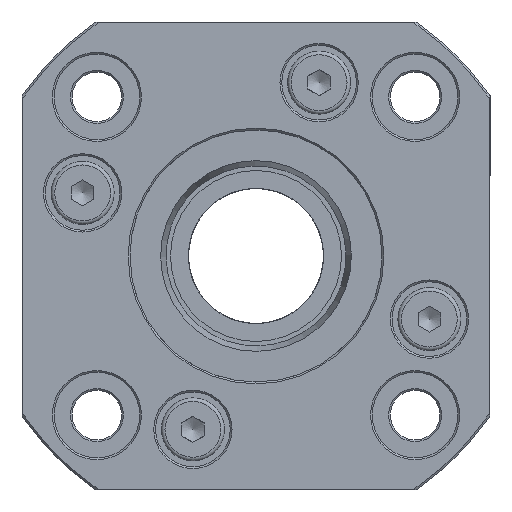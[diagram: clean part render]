
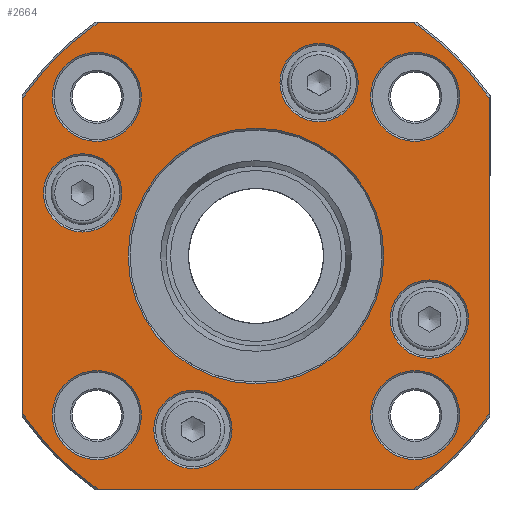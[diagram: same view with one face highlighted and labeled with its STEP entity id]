
A CAD part, left-side view. The second image highlights one B-rep face of the part: STEP entity #2664.
In plain terms, the highlighted planar face has unit normal (-1, 0, 0).
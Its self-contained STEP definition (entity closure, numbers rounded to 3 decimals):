
#165=FACE_BOUND('',#729,.T.);
#166=FACE_BOUND('',#730,.T.);
#167=FACE_BOUND('',#731,.T.);
#168=FACE_BOUND('',#732,.T.);
#169=FACE_BOUND('',#733,.T.);
#170=FACE_BOUND('',#734,.T.);
#171=FACE_BOUND('',#735,.T.);
#172=FACE_BOUND('',#736,.T.);
#173=FACE_BOUND('',#737,.T.);
#347=PLANE('',#2891);
#392=LINE('',#4374,#436);
#398=LINE('',#4415,#442);
#402=LINE('',#4441,#446);
#403=LINE('',#4442,#447);
#436=VECTOR('',#3362,34.853);
#442=VECTOR('',#3390,34.853);
#446=VECTOR('',#3412,34.853);
#447=VECTOR('',#3413,34.853);
#542=FACE_OUTER_BOUND('',#728,.T.);
#728=EDGE_LOOP('',(#1961,#1962,#1963,#1964,#1965,#1966,#1967,#1968));
#729=EDGE_LOOP('',(#1969));
#730=EDGE_LOOP('',(#1970));
#731=EDGE_LOOP('',(#1971));
#732=EDGE_LOOP('',(#1972));
#733=EDGE_LOOP('',(#1973));
#734=EDGE_LOOP('',(#1974));
#735=EDGE_LOOP('',(#1975));
#736=EDGE_LOOP('',(#1976));
#737=EDGE_LOOP('',(#1977));
#1082=CIRCLE('',#2867,31.3);
#1085=CIRCLE('',#2873,31.3);
#1088=CIRCLE('',#2878,31.3);
#1091=CIRCLE('',#2884,31.3);
#1095=CIRCLE('',#2890,14.2);
#1096=CIRCLE('',#2892,4.95);
#1097=CIRCLE('',#2893,4.95);
#1098=CIRCLE('',#2894,4.35);
#1099=CIRCLE('',#2895,4.35);
#1100=CIRCLE('',#2896,4.35);
#1101=CIRCLE('',#2897,4.35);
#1102=CIRCLE('',#2898,4.95);
#1103=CIRCLE('',#2899,4.95);
#1352=VERTEX_POINT('',#4355);
#1353=VERTEX_POINT('',#4359);
#1357=VERTEX_POINT('',#4373);
#1360=VERTEX_POINT('',#4383);
#1364=VERTEX_POINT('',#4396);
#1365=VERTEX_POINT('',#4400);
#1369=VERTEX_POINT('',#4414);
#1372=VERTEX_POINT('',#4424);
#1376=VERTEX_POINT('',#4438);
#1377=VERTEX_POINT('',#4443);
#1378=VERTEX_POINT('',#4445);
#1379=VERTEX_POINT('',#4447);
#1380=VERTEX_POINT('',#4449);
#1381=VERTEX_POINT('',#4451);
#1382=VERTEX_POINT('',#4453);
#1383=VERTEX_POINT('',#4455);
#1384=VERTEX_POINT('',#4457);
#1603=EDGE_CURVE('',#1352,#1353,#1082,.T.);
#1609=EDGE_CURVE('',#1357,#1353,#392,.T.);
#1613=EDGE_CURVE('',#1357,#1360,#1085,.T.);
#1619=EDGE_CURVE('',#1364,#1365,#1088,.T.);
#1625=EDGE_CURVE('',#1369,#1365,#398,.T.);
#1629=EDGE_CURVE('',#1369,#1372,#1091,.T.);
#1635=EDGE_CURVE('',#1376,#1376,#1095,.T.);
#1636=EDGE_CURVE('',#1352,#1372,#402,.T.);
#1637=EDGE_CURVE('',#1364,#1360,#403,.T.);
#1638=EDGE_CURVE('',#1377,#1377,#1096,.T.);
#1639=EDGE_CURVE('',#1378,#1378,#1097,.T.);
#1640=EDGE_CURVE('',#1379,#1379,#1098,.T.);
#1641=EDGE_CURVE('',#1380,#1380,#1099,.T.);
#1642=EDGE_CURVE('',#1381,#1381,#1100,.T.);
#1643=EDGE_CURVE('',#1382,#1382,#1101,.T.);
#1644=EDGE_CURVE('',#1383,#1383,#1102,.T.);
#1645=EDGE_CURVE('',#1384,#1384,#1103,.T.);
#1961=ORIENTED_EDGE('',*,*,#1603,.F.);
#1962=ORIENTED_EDGE('',*,*,#1636,.T.);
#1963=ORIENTED_EDGE('',*,*,#1629,.F.);
#1964=ORIENTED_EDGE('',*,*,#1625,.T.);
#1965=ORIENTED_EDGE('',*,*,#1619,.F.);
#1966=ORIENTED_EDGE('',*,*,#1637,.T.);
#1967=ORIENTED_EDGE('',*,*,#1613,.F.);
#1968=ORIENTED_EDGE('',*,*,#1609,.T.);
#1969=ORIENTED_EDGE('',*,*,#1638,.F.);
#1970=ORIENTED_EDGE('',*,*,#1639,.F.);
#1971=ORIENTED_EDGE('',*,*,#1640,.F.);
#1972=ORIENTED_EDGE('',*,*,#1641,.F.);
#1973=ORIENTED_EDGE('',*,*,#1642,.F.);
#1974=ORIENTED_EDGE('',*,*,#1643,.F.);
#1975=ORIENTED_EDGE('',*,*,#1644,.F.);
#1976=ORIENTED_EDGE('',*,*,#1645,.F.);
#1977=ORIENTED_EDGE('',*,*,#1635,.F.);
#2664=ADVANCED_FACE('',(#542,#165,#166,#167,#168,#169,#170,#171,#172,#173),
#347,.F.);
#2867=AXIS2_PLACEMENT_3D('',#4360,#3350,#3351);
#2873=AXIS2_PLACEMENT_3D('',#4384,#3367,#3368);
#2878=AXIS2_PLACEMENT_3D('',#4401,#3378,#3379);
#2884=AXIS2_PLACEMENT_3D('',#4425,#3395,#3396);
#2890=AXIS2_PLACEMENT_3D('',#4439,#3408,#3409);
#2891=AXIS2_PLACEMENT_3D('',#4440,#3410,#3411);
#2892=AXIS2_PLACEMENT_3D('',#4444,#3414,#3415);
#2893=AXIS2_PLACEMENT_3D('',#4446,#3416,#3417);
#2894=AXIS2_PLACEMENT_3D('',#4448,#3418,#3419);
#2895=AXIS2_PLACEMENT_3D('',#4450,#3420,#3421);
#2896=AXIS2_PLACEMENT_3D('',#4452,#3422,#3423);
#2897=AXIS2_PLACEMENT_3D('',#4454,#3424,#3425);
#2898=AXIS2_PLACEMENT_3D('',#4456,#3426,#3427);
#2899=AXIS2_PLACEMENT_3D('',#4458,#3428,#3429);
#3350=DIRECTION('center_axis',(1.,0.,0.));
#3351=DIRECTION('ref_axis',(0.,0.,-1.));
#3362=DIRECTION('',(0.,-1.,0.));
#3367=DIRECTION('center_axis',(1.,0.,0.));
#3368=DIRECTION('ref_axis',(0.,0.,-1.));
#3378=DIRECTION('center_axis',(1.,0.,0.));
#3379=DIRECTION('ref_axis',(0.,0.,1.));
#3390=DIRECTION('',(0.,1.,0.));
#3395=DIRECTION('center_axis',(1.,0.,0.));
#3396=DIRECTION('ref_axis',(0.,0.,1.));
#3408=DIRECTION('center_axis',(-1.,0.,0.));
#3409=DIRECTION('ref_axis',(0.,0.,1.));
#3410=DIRECTION('center_axis',(1.,0.,0.));
#3411=DIRECTION('ref_axis',(0.,0.,-1.));
#3412=DIRECTION('',(0.,0.,1.));
#3413=DIRECTION('',(0.,0.,-1.));
#3414=DIRECTION('center_axis',(-1.,0.,0.));
#3415=DIRECTION('ref_axis',(0.,0.,-1.));
#3416=DIRECTION('center_axis',(-1.,0.,0.));
#3417=DIRECTION('ref_axis',(0.,0.,-1.));
#3418=DIRECTION('center_axis',(-1.,0.,0.));
#3419=DIRECTION('ref_axis',(0.,0.,-1.));
#3420=DIRECTION('center_axis',(-1.,0.,0.));
#3421=DIRECTION('ref_axis',(0.,0.,-1.));
#3422=DIRECTION('center_axis',(-1.,0.,0.));
#3423=DIRECTION('ref_axis',(0.,0.,-1.));
#3424=DIRECTION('center_axis',(-1.,0.,0.));
#3425=DIRECTION('ref_axis',(0.,0.,-1.));
#3426=DIRECTION('center_axis',(-1.,0.,0.));
#3427=DIRECTION('ref_axis',(0.,0.,-1.));
#3428=DIRECTION('center_axis',(-1.,0.,0.));
#3429=DIRECTION('ref_axis',(0.,0.,-1.));
#4355=CARTESIAN_POINT('',(0.,-26.,-17.427));
#4359=CARTESIAN_POINT('',(0.,-17.427,-26.));
#4360=CARTESIAN_POINT('Origin',(0.,0.,0.));
#4373=CARTESIAN_POINT('',(0.,17.427,-26.));
#4374=CARTESIAN_POINT('',(0.,26.,-26.));
#4383=CARTESIAN_POINT('',(0.,26.,-17.427));
#4384=CARTESIAN_POINT('Origin',(0.,0.,0.));
#4396=CARTESIAN_POINT('',(0.,26.,17.427));
#4400=CARTESIAN_POINT('',(0.,17.427,26.));
#4401=CARTESIAN_POINT('Origin',(0.,0.,0.));
#4414=CARTESIAN_POINT('',(0.,-17.427,26.));
#4415=CARTESIAN_POINT('',(0.,-26.,26.));
#4424=CARTESIAN_POINT('',(0.,-26.,17.427));
#4425=CARTESIAN_POINT('Origin',(0.,0.,0.));
#4438=CARTESIAN_POINT('',(0.,0.,-14.2));
#4439=CARTESIAN_POINT('Origin',(0.,0.,0.));
#4440=CARTESIAN_POINT('Origin',(0.,0.,0.));
#4441=CARTESIAN_POINT('',(0.,-26.,-26.));
#4442=CARTESIAN_POINT('',(0.,26.,26.));
#4443=CARTESIAN_POINT('',(0.,-17.678,-12.728));
#4444=CARTESIAN_POINT('Origin',(0.,-17.678,-17.678));
#4445=CARTESIAN_POINT('',(0.,17.678,22.628));
#4446=CARTESIAN_POINT('Origin',(0.,17.678,17.678));
#4447=CARTESIAN_POINT('',(0.,-19.264,-2.661));
#4448=CARTESIAN_POINT('Origin',(0.,-19.264,-7.011));
#4449=CARTESIAN_POINT('',(0.,19.264,11.361));
#4450=CARTESIAN_POINT('Origin',(0.,19.264,7.011));
#4451=CARTESIAN_POINT('',(0.,7.011,-14.914));
#4452=CARTESIAN_POINT('Origin',(0.,7.011,-19.264));
#4453=CARTESIAN_POINT('',(0.,-7.011,23.614));
#4454=CARTESIAN_POINT('Origin',(0.,-7.011,19.264));
#4455=CARTESIAN_POINT('',(0.,17.678,-12.728));
#4456=CARTESIAN_POINT('Origin',(0.,17.678,-17.678));
#4457=CARTESIAN_POINT('',(0.,-17.678,22.628));
#4458=CARTESIAN_POINT('Origin',(0.,-17.678,17.678));
